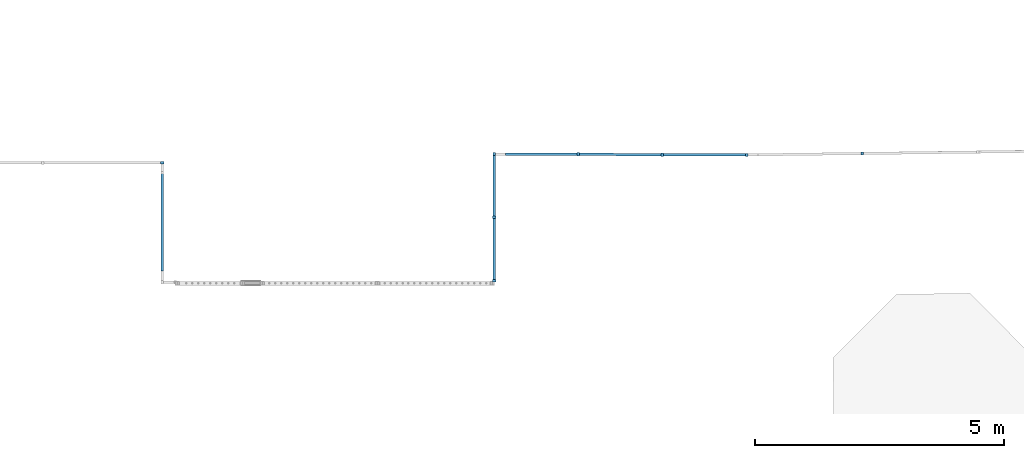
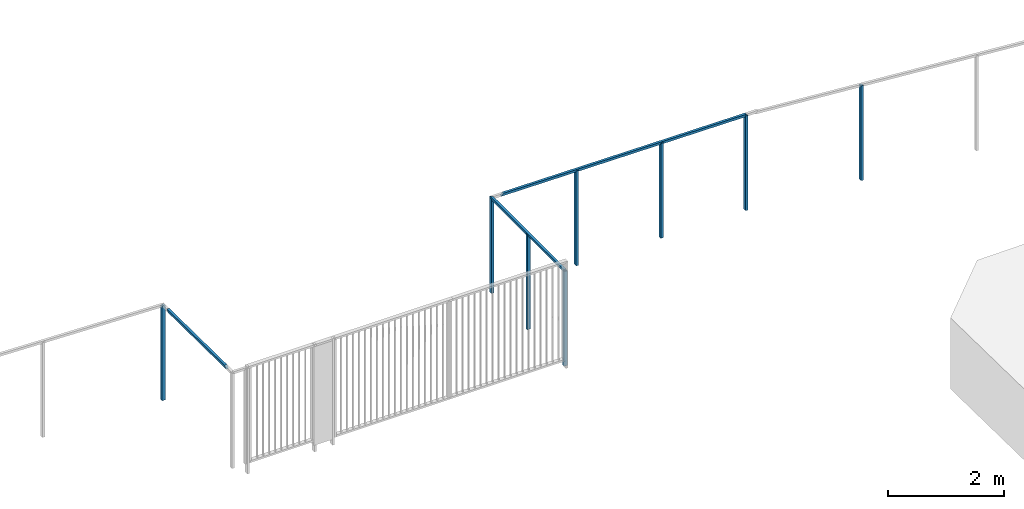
# One storey, part 74 of 91: 11 building element parts, 1 element without a shape of its own.
"""IFC2X3 building model written with IfcOpenShell, lengths in metres."""

from ifc_helpers import new_model, entity, si_unit, converted_unit, derived_unit, money_unit, direction, frame, origin_with_axes, place, context, subcontext, project, spatial, faceted_brep, material, type_object, element, aggregate, save


model = new_model("IFC2X3")

# Units and contexts
model_context = context("Model", 3, precision=1e-05, world=origin_with_axes(), true_north=direction((0.0, 1.0)))
body_context = subcontext(model_context, "Body", "Model", "MODEL_VIEW")
ifc_project = project(units=[si_unit("LENGTHUNIT", "METRE"), si_unit("AREAUNIT", "SQUARE_METRE"), si_unit("VOLUMEUNIT", "CUBIC_METRE"), converted_unit("PLANEANGLEUNIT", "DEGREE", entity("IfcPlaneAngleMeasure", 0.0174532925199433), si_unit("PLANEANGLEUNIT", "RADIAN"), dimensions=[0, 0, 0, 0, 0, 0, 0]), money_unit("EUR"), converted_unit("TIMEUNIT", "Year", entity("IfcTimeMeasure", 31557600.0), si_unit("TIMEUNIT", "SECOND"), dimensions=[0, 0, 1, 0, 0, 0, 0]), si_unit("MASSUNIT", "GRAM", prefix="KILO"), si_unit("THERMODYNAMICTEMPERATUREUNIT", "DEGREE_CELSIUS"), si_unit("LUMINOUSINTENSITYUNIT", "LUMEN"), si_unit("ENERGYUNIT", "JOULE", prefix="MEGA"), derived_unit("THERMALCONDUCTANCEUNIT", [(si_unit("POWERUNIT", "WATT"), 1), (si_unit("LENGTHUNIT", "METRE"), -1), (si_unit("THERMODYNAMICTEMPERATUREUNIT", "KELVIN"), -1)]), derived_unit("SPECIFICHEATCAPACITYUNIT", [(si_unit("ENERGYUNIT", "JOULE"), 1), (si_unit("MASSUNIT", "GRAM", prefix="KILO"), -1), (si_unit("THERMODYNAMICTEMPERATUREUNIT", "KELVIN"), -1)]), derived_unit("MASSDENSITYUNIT", [(si_unit("MASSUNIT", "GRAM", prefix="KILO"), 1), (si_unit("VOLUMEUNIT", "CUBIC_METRE"), -1)])], contexts=[model_context])

# Site, building, storey
site_placement = place(None, origin_with_axes())
site = spatial("IfcSite", under=ifc_project, at=site_placement, Name="Site", CompositionType="ELEMENT")
building_placement = place(site_placement, origin_with_axes())
building = spatial("IfcBuilding", under=site, at=building_placement, Name="Bâtiment", CompositionType="ELEMENT")
storey_placement = place(building_placement, origin_with_axes())
storey = spatial("IfcBuildingStorey", under=building, at=storey_placement, Name="RDC", CompositionType="ELEMENT", Elevation=0.0)

# Proxy, building element parts
building_element_proxy_type = type_object("IfcBuildingElementProxyType", Name="Type de garde-corps", PredefinedType="NOTDEFINED")
proxy_placement = place(storey_placement, frame((79.63337255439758, 3.614023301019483, -2.37161404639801), z_axis=(0.0, 0.0, 1.0), x_axis=(1.0, 0.0, 0.0)))
proxy = element("IfcBuildingElementProxy", 1, at=proxy_placement, inside=storey, type_object=building_element_proxy_type, Name="RAMPE-004")
ifc_material = material(Name="Acier Galva")
building_element_part_1_placement = place(proxy_placement, origin_with_axes())
building_element_part_1 = element("IfcBuildingElementPart", 2, at=building_element_part_1_placement, material=ifc_material, Name="Acier Galva", context=body_context, shape_type="Brep", body=[
    faceted_brep([(1.373188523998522, 3.404564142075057, 0.7835871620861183), (1.307188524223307, 3.404569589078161, 0.7845295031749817), (1.307188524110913, 3.404566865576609, 2.784372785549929), (1.373188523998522, 3.354564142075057, 0.7838761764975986), (1.307188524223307, 3.354569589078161, 0.7848185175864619), (1.307188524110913, 3.354566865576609, 2.784372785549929), (1.373188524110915, 3.404566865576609, 2.784372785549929), (1.373188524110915, 3.354566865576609, 2.784372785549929)], [[[0, 1, 2]], [[0, 3, 4, 1]], [[1, 4, 5, 2]], [[0, 2, 6]], [[3, 0, 6, 7]], [[4, 3, 7]], [[4, 7, 5]], [[6, 2, 5, 7]]]),
])
building_element_part_2_placement = place(proxy_placement, origin_with_axes())
building_element_part_2 = element("IfcBuildingElementPart", 3, at=building_element_part_2_placement, material=ifc_material, Name="Acier Galva", context=body_context, shape_type="Brep", body=[
    faceted_brep([(13.04001184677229, 3.569051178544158, 0.5982435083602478), (13.04085664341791, 3.503056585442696, 0.598241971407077), (13.04085664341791, 3.503056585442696, 2.598241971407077), (13.04001184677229, 3.569051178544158, 2.598243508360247), (13.09000774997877, 3.569691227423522, 0.5960352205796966), (13.09085254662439, 3.50369663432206, 0.5960336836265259), (13.09085254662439, 3.50369663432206, 2.596033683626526), (13.09000774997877, 3.569691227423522, 2.596035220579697)], [[[0, 1, 2, 3]], [[0, 4, 5, 1]], [[1, 5, 6, 2]], [[3, 2, 6, 7]], [[4, 0, 3, 7]], [[5, 4, 7, 6]]]),
])
building_element_part_3_placement = place(proxy_placement, origin_with_axes())
building_element_part_3 = element("IfcBuildingElementPart", 4, at=building_element_part_3_placement, material=ifc_material, Name="Acier Galva", context=body_context, shape_type="Brep", body=[
    faceted_brep([(7.975451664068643, 3.587467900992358, 0.6116210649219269), (7.97521704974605, 3.521468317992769, 0.6116210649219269), (7.97521704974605, 3.521468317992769, 2.61161404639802), (7.975451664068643, 3.587467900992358, 2.61161404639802), (8.025451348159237, 3.587290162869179, 0.611549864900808), (8.025216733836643, 3.521290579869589, 0.611549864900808), (8.025216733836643, 3.521290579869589, 2.61161404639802), (8.025451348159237, 3.587290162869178, 2.61161404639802)], [[[0, 1, 2, 3]], [[0, 4, 5, 1]], [[1, 5, 6, 2]], [[3, 2, 6, 7]], [[4, 0, 3, 7]], [[5, 4, 7, 6]]]),
])
building_element_part_4_placement = place(proxy_placement, origin_with_axes())
building_element_part_4 = element("IfcBuildingElementPart", 5, at=building_element_part_4_placement, material=ifc_material, Name="Acier Galva", context=body_context, shape_type="Brep", body=[
    faceted_brep([(7.967334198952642, 0.9923344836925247, 0.6116140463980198), (8.033334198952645, 0.9923344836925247, 0.6116140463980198), (8.033334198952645, 0.9923344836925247, 2.61161404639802), (7.967334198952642, 0.9923344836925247, 2.61161404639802), (7.967334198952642, 1.042334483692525, 0.6116140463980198), (8.033334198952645, 1.042334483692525, 0.6116140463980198), (8.033334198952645, 1.042334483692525, 2.61161404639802), (7.967334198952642, 1.042334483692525, 2.61161404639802)], [[[0, 1, 2, 3]], [[0, 4, 5, 1]], [[1, 5, 6, 2]], [[3, 2, 6, 7]], [[4, 0, 3, 7]], [[5, 4, 7, 6]]]),
])
building_element_part_5_placement = place(proxy_placement, origin_with_axes())
building_element_part_5 = element("IfcBuildingElementPart", 6, at=building_element_part_5_placement, material=ifc_material, Name="Acier Galva", context=body_context, shape_type="Brep", body=[
    faceted_brep([(1.36518852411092, 1.205013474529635, 2.834180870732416), (1.36518852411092, 1.155013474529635, 2.784755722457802), (1.36518852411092, 3.15456686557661, 2.761633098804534), (1.36518852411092, 3.204566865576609, 2.811058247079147), (1.315188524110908, 1.205013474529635, 2.834180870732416), (1.315188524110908, 1.155013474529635, 2.784755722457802), (1.315188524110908, 3.15456686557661, 2.761633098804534), (1.315188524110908, 3.204566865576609, 2.811058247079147)], [[[0, 1, 2, 3]], [[0, 4, 5, 1]], [[1, 5, 6, 2]], [[3, 2, 6, 7]], [[4, 0, 3, 7]], [[5, 4, 7, 6]]]),
])
building_element_part_6_placement = place(proxy_placement, origin_with_axes())
building_element_part_6 = element("IfcBuildingElementPart", 7, at=building_element_part_6_placement, material=ifc_material, Name="Acier Galva", context=body_context, shape_type="Brep", body=[
    faceted_brep([(15.35784075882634, 3.598724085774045, 0.4007832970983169), (15.3586856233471, 3.532729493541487, 0.4007832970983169), (15.3586856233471, 3.532729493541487, 2.400783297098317), (15.35784075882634, 3.598724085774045, 2.400783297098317), (15.40783666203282, 3.599364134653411, 0.3965015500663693), (15.40868152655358, 3.533369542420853, 0.3965015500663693), (15.40868152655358, 3.533369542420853, 2.396501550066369), (15.40783666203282, 3.59936413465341, 2.396501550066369)], [[[0, 1, 2, 3]], [[0, 4, 5, 1]], [[1, 5, 6, 2]], [[3, 2, 6, 7]], [[4, 0, 3, 7]], [[5, 4, 7, 6]]]),
])
building_element_part_7_placement = place(proxy_placement, origin_with_axes())
building_element_part_7 = element("IfcBuildingElementPart", 8, at=building_element_part_7_placement, material=ifc_material, Name="Acier Galva", context=body_context, shape_type="Brep", body=[
    faceted_brep([(13.06535221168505, 3.561374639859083, 2.622131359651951), (13.06528101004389, 3.56137431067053, 2.572131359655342), (8.175421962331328, 3.578756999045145, 2.586058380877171), (13.06558338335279, 3.511373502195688, 2.622131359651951), (13.06551218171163, 3.511373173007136, 2.572131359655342), (8.175244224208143, 3.528757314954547, 2.586058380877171), (8.225421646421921, 3.578579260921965, 2.635916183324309), (8.225243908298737, 3.528579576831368, 2.635916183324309)], [[[0, 1, 2]], [[0, 3, 4, 1]], [[1, 5, 2]], [[0, 2, 6]], [[3, 0, 6]], [[4, 3, 7]], [[1, 4, 5]], [[6, 2, 5, 7]], [[3, 6, 7]], [[4, 7, 5]]]),
])
building_element_part_8_placement = place(proxy_placement, origin_with_axes())
building_element_part_8 = element("IfcBuildingElementPart", 9, at=building_element_part_8_placement, material=ifc_material, Name="Acier Galva", context=body_context, shape_type="Brep", body=[
    faceted_brep([(11.35218366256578, 3.575464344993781, 0.6020110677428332), (11.35194904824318, 3.509464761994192, 0.6020110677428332), (11.35194904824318, 3.509464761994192, 2.602011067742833), (11.35218366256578, 3.575464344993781, 2.602011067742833), (11.40218334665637, 3.575286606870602, 0.6018686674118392), (11.40194873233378, 3.509287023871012, 0.6018686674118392), (11.40194873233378, 3.509287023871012, 2.601868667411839), (11.40218334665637, 3.575286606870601, 2.601868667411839)], [[[0, 1, 2, 3]], [[0, 4, 5, 1]], [[1, 5, 6, 2]], [[3, 2, 6, 7]], [[4, 0, 3, 7]], [[5, 4, 7, 6]]]),
])
building_element_part_9_placement = place(proxy_placement, origin_with_axes())
building_element_part_9 = element("IfcBuildingElementPart", 10, at=building_element_part_9_placement, material=ifc_material, Name="Acier Galva", context=body_context, shape_type="Brep", body=[
    faceted_brep([(9.663817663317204, 3.58146612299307, 0.6068195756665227), (9.66358304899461, 3.51546653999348, 0.6068195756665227), (9.66358304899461, 3.51546653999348, 2.606819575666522), (9.663817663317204, 3.58146612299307, 2.606819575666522), (9.713817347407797, 3.58128838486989, 0.6066771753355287), (9.713582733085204, 3.515288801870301, 0.6066771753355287), (9.713582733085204, 3.515288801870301, 2.606677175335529), (9.713817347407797, 3.58128838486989, 2.606677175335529)], [[[0, 1, 2, 3]], [[0, 4, 5, 1]], [[1, 5, 6, 2]], [[3, 2, 6, 7]], [[4, 0, 3, 7]], [[5, 4, 7, 6]]]),
])
building_element_part_10_placement = place(proxy_placement, origin_with_axes())
building_element_part_10 = element("IfcBuildingElementPart", 11, at=building_element_part_10_placement, material=ifc_material, Name="Acier Galva", context=body_context, shape_type="Brep", body=[
    faceted_brep([(7.975334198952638, 3.579468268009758, 2.636614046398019), (7.975334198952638, 3.579468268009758, 2.58661404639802), (7.975334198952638, 1.017334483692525, 2.58661404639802), (7.975334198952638, 1.017334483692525, 2.636614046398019), (8.025334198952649, 3.52929021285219, 2.636614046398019), (8.025334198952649, 3.52929021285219, 2.58661404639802), (8.025334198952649, 1.017334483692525, 2.58661404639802), (8.025334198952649, 1.017334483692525, 2.636614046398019)], [[[0, 1, 2, 3]], [[0, 4, 5, 1]], [[1, 5, 6, 2]], [[3, 2, 6, 7]], [[4, 0, 3, 7]], [[5, 4, 7, 6]]]),
])
building_element_part_11_placement = place(proxy_placement, origin_with_axes())
building_element_part_11 = element("IfcBuildingElementPart", 12, at=building_element_part_11_placement, material=ifc_material, Name="Acier Galva", context=body_context, shape_type="Brep", body=[
    faceted_brep([(7.967334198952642, 2.260856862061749, 0.6116140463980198), (8.033334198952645, 2.260856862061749, 0.6116140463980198), (8.033334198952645, 2.260856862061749, 2.61161404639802), (7.967334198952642, 2.260856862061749, 2.61161404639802), (7.967334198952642, 2.310856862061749, 0.6116140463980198), (8.033334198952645, 2.310856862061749, 0.6116140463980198), (8.033334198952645, 2.310856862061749, 2.61161404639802), (7.967334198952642, 2.310856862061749, 2.61161404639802)], [[[0, 1, 2, 3]], [[0, 4, 5, 1]], [[1, 5, 6, 2]], [[3, 2, 6, 7]], [[4, 0, 3, 7]], [[5, 4, 7, 6]]]),
])
aggregate(proxy, [building_element_part_1, building_element_part_2, building_element_part_3, building_element_part_4, building_element_part_5, building_element_part_6, building_element_part_7, building_element_part_8, building_element_part_9, building_element_part_10, building_element_part_11])

save(model, "model.ifc")
